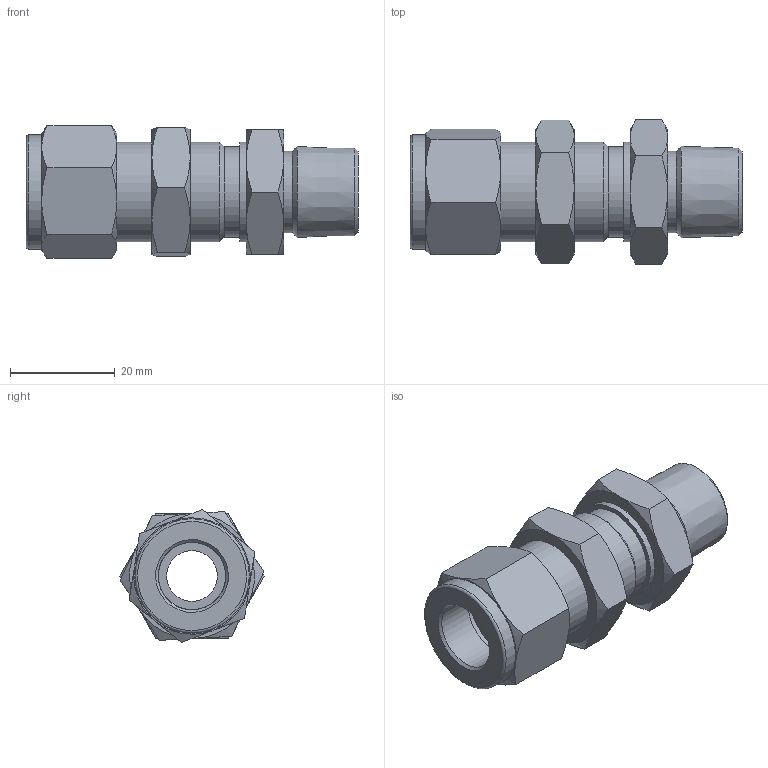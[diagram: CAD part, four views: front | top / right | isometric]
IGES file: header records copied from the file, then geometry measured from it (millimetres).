
Global section: file name: No Iges File Name specified; native system: Autodesk Inventor 2012; preprocessor: AutoDesk Inventor Iges Exporter R2012; author: 硅己绕,, ; organization: 11; date: 20150603.092557; units: millimetre
Bounding box: 63.3 x 27.5 x 25.36 mm (x, y, z)
Volume: 15607.7 mm3; surface area: 9921.1 mm2
Topology: 3 solids, 3 shells, 87 faces, 176 edges, 102 vertices
Faces by surface type: cone 41, plane 31, revolution 8, cylinder 6, torus 1
Full cylindrical faces by diameter (mm): 15.5 x1, 17.2 x1, 17.3 x1, 19.05 x2, 21.8 x1
